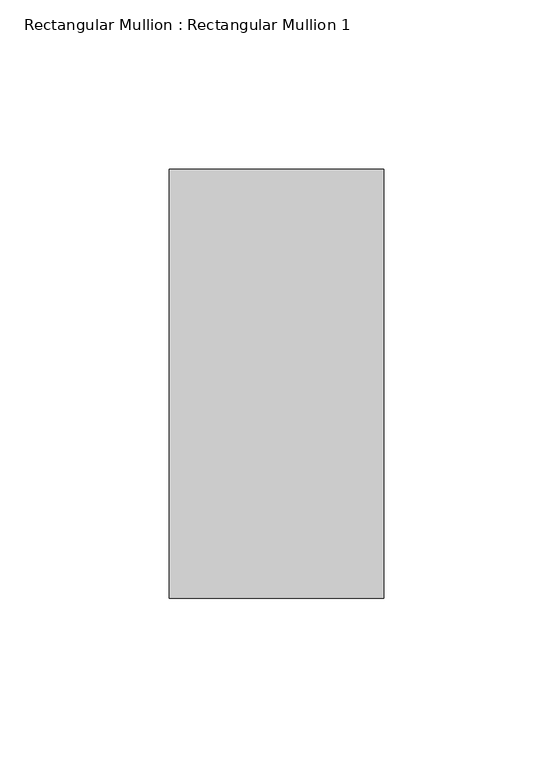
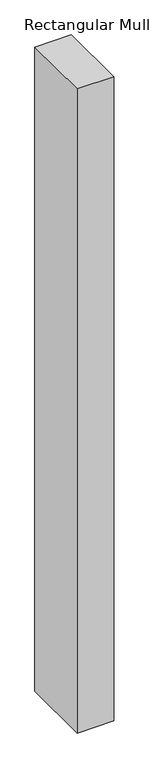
"""IFC4 building model written with IfcOpenShell, lengths in millimetres: member geometry, Rectangular Mullion : Rectangular Mullion 1."""

from ifc_helpers import new_model, si_unit, frame, origin, place, context, project, spatial, polyline, outline, extrude, source, transform, mapped, element, save


def rectangular_mullion_rectangular_mullion_1_13227b79(model_context):
    return source(origin(), model_context, "Body", "SweptSolid", [
        extrude(outline(polyline([(0.0, 63.5), (0.0, -63.5), (-63.5, -63.5), (-63.5, 63.5), (0.0, 63.5)])), frame((0.0, 0.0, -1182.3699999), z_axis=(0.0, 0.0, 1.0), x_axis=(1.0, 0.0, 0.0)), (0.0, 0.0, 1.0), 1182.3699999),
    ])


if __name__ == "__main__":
    model = new_model("IFC4")
    model_context = context("Model", 3, world=origin())
    ifc_project = project(units=[si_unit("LENGTHUNIT", "METRE", prefix="MILLI")], contexts=[model_context])
    site = spatial("IfcSite", under=ifc_project)
    building = spatial("IfcBuilding", under=site)
    placement = place(None, origin())
    rectangular_mullion_rectangular_mullion_1_shape = rectangular_mullion_rectangular_mullion_1_13227b79(model_context)
    element("IfcMember", 1, ObjectType="Rectangular Mullion : Rectangular Mullion 1", at=placement, inside=building, context=model_context, shape_type="MappedRepresentation", body=[
        mapped(rectangular_mullion_rectangular_mullion_1_shape, transform((0.0, 0.0, 0.0), x_axis=(1.0, 0.0, 0.0), y_axis=(0.0, 1.0, 0.0), z_axis=(0.0, 0.0, 1.0))),
    ])
    save(model, "model.ifc")
